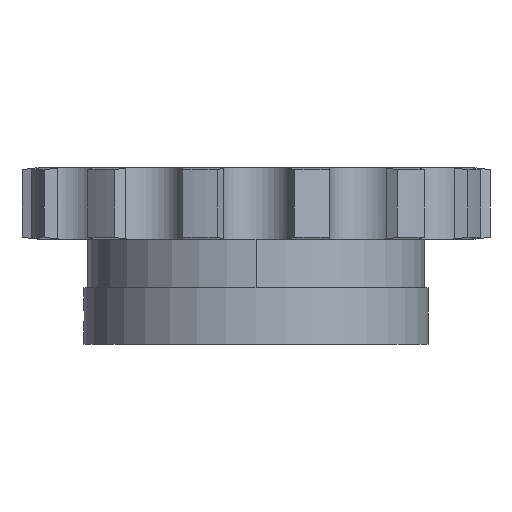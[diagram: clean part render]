
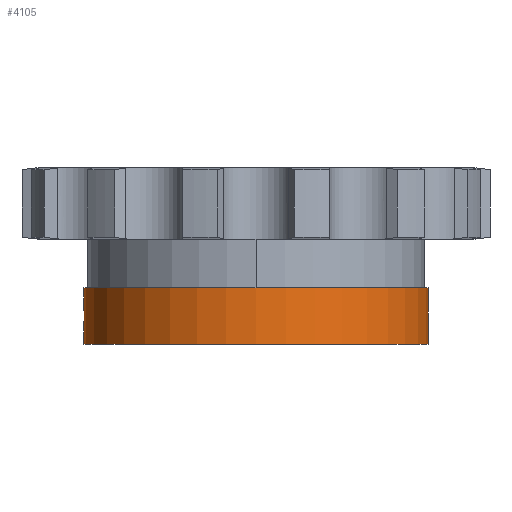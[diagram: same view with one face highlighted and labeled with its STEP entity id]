
A CAD part, front view. The second image highlights one B-rep face of the part: STEP entity #4105.
In plain terms, the highlighted cylindrical face has radius 39 mm (diameter 78 mm), a partial arc.
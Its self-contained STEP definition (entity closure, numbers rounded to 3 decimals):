
#997=CARTESIAN_POINT('',(-39.,0.,
-23.5));
#1019=DIRECTION('',(0.,0.,1.));
#1020=VECTOR('',#1019,12.8);
#1021=CARTESIAN_POINT('',(39.,0.,-31.9));
#1022=LINE('',#1021,#1020);
#1144=CARTESIAN_POINT('',(-39.,0.,
-23.5));
#1145=CARTESIAN_POINT('',(-39.,-0.105,
-23.5));
#1146=CARTESIAN_POINT('',(-38.999,-0.313,
-23.516));
#1147=CARTESIAN_POINT('',(-38.995,-0.626,
-23.59));
#1148=CARTESIAN_POINT('',(-38.989,-0.924,
-23.713));
#1149=CARTESIAN_POINT('',(-38.982,-1.197,
-23.879));
#1150=CARTESIAN_POINT('',(-38.974,-1.437,
-24.084));
#1151=CARTESIAN_POINT('',(-38.966,-1.643,
-24.325));
#1152=CARTESIAN_POINT('',(-38.958,-1.81,
-24.597));
#1153=CARTESIAN_POINT('',(-38.952,-1.931,
-24.89));
#1154=CARTESIAN_POINT('',(-38.949,-2.003,
-25.197));
#1155=CARTESIAN_POINT('',(-38.948,-2.018,
-25.399));
#1156=CARTESIAN_POINT('',(-38.948,-2.018,
-25.5));
#1161=DIRECTION('',(0.,0.,1.));
#1162=VECTOR('',#1161,4.4);
#1163=CARTESIAN_POINT('',(-39.,0.,
-23.5));
#1164=LINE('',#1163,#1162);
#1168=CARTESIAN_POINT('',(0.,0.,-19.1));
#1169=DIRECTION('',(0.,0.,1.));
#1170=DIRECTION('',(-1.,0.,0.));
#1171=AXIS2_PLACEMENT_3D('',#1168,#1169,#1170);
#1176=DIRECTION('',(0.,0.,1.));
#1177=VECTOR('',#1176,4.4);
#1178=CARTESIAN_POINT('',(-39.,0.,-31.9));
#1179=LINE('',#1178,#1177);
#1183=CARTESIAN_POINT('',(-38.948,-2.018,
-25.5));
#1184=CARTESIAN_POINT('',(-38.948,-2.018,
-25.601));
#1185=CARTESIAN_POINT('',(-38.949,-2.003,
-25.802));
#1186=CARTESIAN_POINT('',(-38.952,-1.931,
-26.108));
#1187=CARTESIAN_POINT('',(-38.958,-1.811,
-26.402));
#1188=CARTESIAN_POINT('',(-38.965,-1.644,
-26.674));
#1189=CARTESIAN_POINT('',(-38.974,-1.438,
-26.915));
#1190=CARTESIAN_POINT('',(-38.982,-1.197,
-27.12));
#1191=CARTESIAN_POINT('',(-38.989,-0.925,
-27.287));
#1192=CARTESIAN_POINT('',(-38.995,-0.627,
-27.41));
#1193=CARTESIAN_POINT('',(-38.999,-0.314,
-27.484));
#1194=CARTESIAN_POINT('',(-39.,-0.105,
-27.5));
#1195=CARTESIAN_POINT('',(-39.,0.,
-27.5));
#1208=CARTESIAN_POINT('',(0.,0.,-31.9));
#1209=DIRECTION('',(0.,0.,-1.));
#1210=DIRECTION('',(1.,0.,0.));
#1211=AXIS2_PLACEMENT_3D('',#1208,#1209,#1210);
#2681=CARTESIAN_POINT('',(-39.,0.,-31.9));
#2682=CARTESIAN_POINT('',(39.,0.,-31.9));
#2683=VERTEX_POINT('',#2681);
#2684=VERTEX_POINT('',#2682);
#2826=VERTEX_POINT('',#997);
#2829=VERTEX_POINT('',#1156);
#2831=VERTEX_POINT('',#1195);
#2841=CARTESIAN_POINT('',(39.,0.,-19.1));
#2842=CARTESIAN_POINT('',(-39.,0.,-19.1));
#2843=VERTEX_POINT('',#2841);
#2844=VERTEX_POINT('',#2842);
#4089=CARTESIAN_POINT('',(0.,0.,8.1));
#4090=DIRECTION('',(0.,0.,1.));
#4091=DIRECTION('',(1.,0.,0.));
#4092=AXIS2_PLACEMENT_3D('',#4089,#4090,#4091);
#4093=CYLINDRICAL_SURFACE('',#4092,39.);
#4094=ORIENTED_EDGE('',*,*,#4079,.F.);
#4095=ORIENTED_EDGE('',*,*,#3718,.T.);
#4096=ORIENTED_EDGE('',*,*,#3693,.T.);
#4097=ORIENTED_EDGE('',*,*,#3715,.F.);
#4099=ORIENTED_EDGE('',*,*,#4098,.T.);
#4100=ORIENTED_EDGE('',*,*,#3711,.T.);
#4102=ORIENTED_EDGE('',*,*,#4101,.F.);
#4103=EDGE_LOOP('',(#4094,#4095,#4096,#4097,#4099,#4100,#4102));
#4104=FACE_OUTER_BOUND('',#4103,.F.);
#4105=ADVANCED_FACE('',(#4104),#4093,.T.);
#1157=B_SPLINE_CURVE_WITH_KNOTS('',3,(#1144,#1145,#1146,#1147,#1148,#1149,#1150,
#1151,#1152,#1153,#1154,#1155,#1156),.UNSPECIFIED.,.F.,.F.,(4,1,1,1,1,1,1,1,1,1,
4),(0.,0.1,0.2,0.3,0.4,0.5,0.6,0.7,0.8,0.9,1.),
.UNSPECIFIED.);
#1172=CIRCLE('',#1171,39.);
#1196=B_SPLINE_CURVE_WITH_KNOTS('',3,(#1183,#1184,#1185,#1186,#1187,#1188,#1189,
#1190,#1191,#1192,#1193,#1194,#1195),.UNSPECIFIED.,.F.,.F.,(4,1,1,1,1,1,1,1,1,1,
4),(0.,0.1,0.2,0.3,0.4,0.5,0.6,0.7,0.8,0.9,1.),
.UNSPECIFIED.);
#1212=CIRCLE('',#1211,39.);
#3693=EDGE_CURVE('',#2844,#2843,#1172,.T.);
#3711=EDGE_CURVE('',#2683,#2831,#1179,.T.);
#3715=EDGE_CURVE('',#2684,#2843,#1022,.T.);
#3718=EDGE_CURVE('',#2826,#2844,#1164,.T.);
#4079=EDGE_CURVE('',#2826,#2829,#1157,.T.);
#4098=EDGE_CURVE('',#2684,#2683,#1212,.T.);
#4101=EDGE_CURVE('',#2829,#2831,#1196,.T.);
